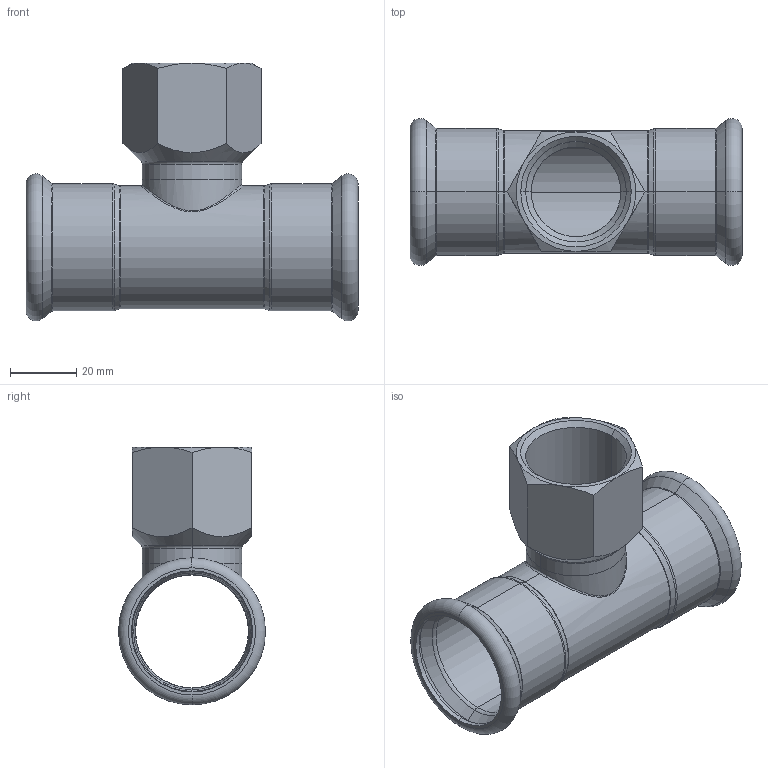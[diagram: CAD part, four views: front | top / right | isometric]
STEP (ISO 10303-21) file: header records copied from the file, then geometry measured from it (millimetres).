
FILE_DESCRIPTION (( 'STEP AP203' ), '1' );
FILE_NAME ('GDA5262.STEP', '2022-10-19T00:53:30', ( 'Windows User' ), ( 'P R C' ), 'SwSTEP 2.0', 'SolidWorks 2015', '' );
FILE_SCHEMA (( 'CONFIG_CONTROL_DESIGN' ));
Length unit declared in the file: millimetre
Products named in the file (3): 35X28; OD28｡ﾁ1; GDA5262
Assembly tree (2 placements, depth 2):
  GDA5262
    35X28
    OD28｡ﾁ1
Bounding box: 100 x 44.3 x 77.65 mm (x, y, z)
Volume: 30415.5 mm3; surface area: 32442.5 mm2
Topology: 2 solids, 2 shells, 106 faces, 228 edges, 127 vertices
Faces by surface type: torus 34, cone 29, cylinder 26, plane 13, bspline 4
Entity records: 4382 total; most frequent: CARTESIAN_POINT 1766, DIRECTION 545, ORIENTED_EDGE 456, AXIS2_PLACEMENT_3D 244, EDGE_CURVE 228, CIRCLE 137, VERTEX_POINT 127, EDGE_LOOP 113
